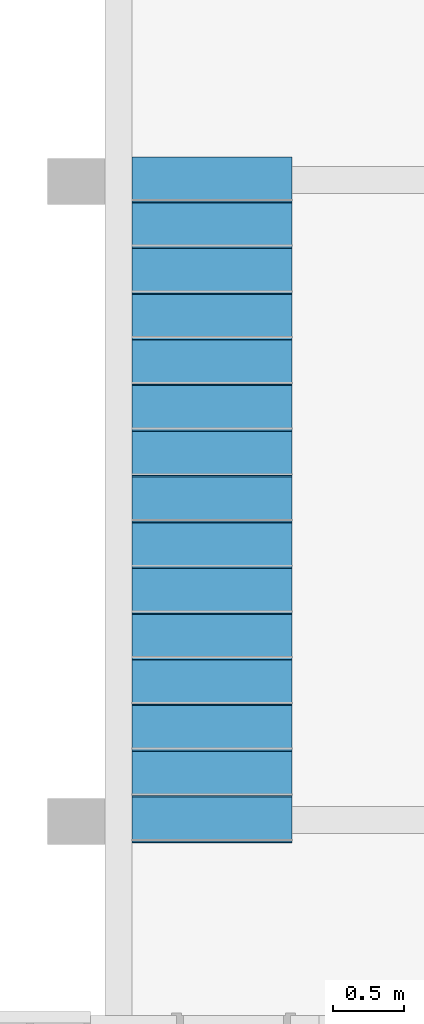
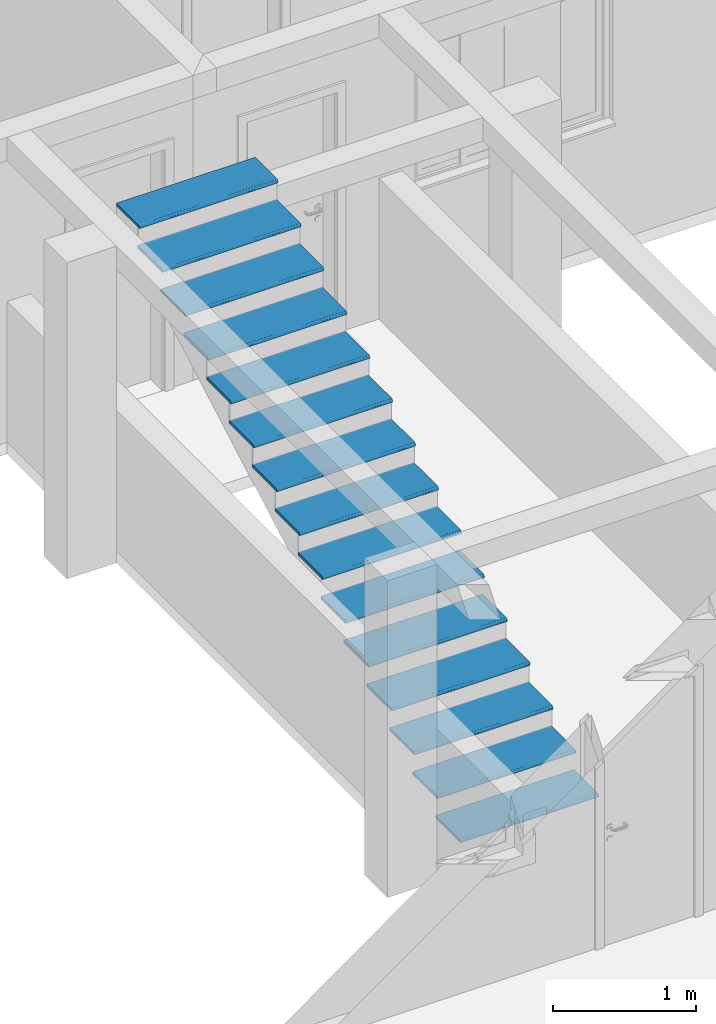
# One storey, part 46 of 47: 15 members, 1 element without a shape of its own.
"""IFC2X3 building model written with IfcOpenShell, lengths in millimetres."""

from ifc_helpers import new_model, entity, si_unit, converted_unit, derived_unit, money_unit, direction, frame, origin_with_axes, place, context, subcontext, project, spatial, faceted_brep, material, type_object, element, aggregate, save


model = new_model("IFC2X3")

# Units and contexts
model_context = context("Model", 3, precision=0.01, world=origin_with_axes(), true_north=direction((0.0, 1.0)))
body_context = subcontext(model_context, "Body", "Model", "MODEL_VIEW")
ifc_project = project(units=[si_unit("LENGTHUNIT", "METRE", prefix="MILLI"), si_unit("AREAUNIT", "SQUARE_METRE"), si_unit("VOLUMEUNIT", "CUBIC_METRE"), converted_unit("PLANEANGLEUNIT", "DEGREE", entity("IfcPlaneAngleMeasure", 0.0174532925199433), si_unit("PLANEANGLEUNIT", "RADIAN"), dimensions=[0, 0, 0, 0, 0, 0, 0]), money_unit("USD"), converted_unit("TIMEUNIT", "Year", entity("IfcTimeMeasure", 31557600.0), si_unit("TIMEUNIT", "SECOND"), dimensions=[0, 0, 1, 0, 0, 0, 0]), si_unit("MASSUNIT", "GRAM", prefix="KILO"), si_unit("THERMODYNAMICTEMPERATUREUNIT", "DEGREE_CELSIUS"), si_unit("LUMINOUSINTENSITYUNIT", "LUMEN"), si_unit("ENERGYUNIT", "JOULE", prefix="MEGA"), derived_unit("THERMALCONDUCTANCEUNIT", [(si_unit("POWERUNIT", "WATT"), 1), (si_unit("LENGTHUNIT", "METRE"), -1), (si_unit("THERMODYNAMICTEMPERATUREUNIT", "KELVIN"), -1)]), derived_unit("SPECIFICHEATCAPACITYUNIT", [(si_unit("ENERGYUNIT", "JOULE"), 1), (si_unit("MASSUNIT", "GRAM", prefix="KILO"), -1), (si_unit("THERMODYNAMICTEMPERATUREUNIT", "KELVIN"), -1)]), derived_unit("MASSDENSITYUNIT", [(si_unit("MASSUNIT", "GRAM", prefix="KILO"), 1), (si_unit("VOLUMEUNIT", "CUBIC_METRE"), -1)])], contexts=[model_context])

# Site, building, storey
site_placement = place(None, origin_with_axes())
site = spatial("IfcSite", under=ifc_project, at=site_placement, Name="Local", CompositionType="ELEMENT")
building_placement = place(site_placement, origin_with_axes())
building = spatial("IfcBuilding", under=site, at=building_placement, Name="Construção", CompositionType="ELEMENT")
storey_placement = place(building_placement, origin_with_axes())
storey = spatial("IfcBuildingStorey", under=building, at=storey_placement, Name="Pavimento Tipo", CompositionType="ELEMENT", Elevation=0.0)

# Stair, members
stair_placement = place(storey_placement, frame((-457.4330024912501, 6396.981417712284, 0.0), z_axis=(0.0, 0.0, 1.0), x_axis=(1.0, 0.0, 0.0)))
stair = element("IfcStair", 1, at=stair_placement, inside=storey, Name="Núcleo - Escada - 001", ShapeType="NOTDEFINED")
ifc_material = material(Name="Madeira")
member_type = type_object("IfcMemberType", Name="IfcMember", PredefinedType="USERDEFINED")
member_1_placement = place(stair_placement, frame((560.0, 0.0, 180.0), z_axis=(0.0, 0.0, 1.0), x_axis=(1.0, 0.0, 0.0)))
member_1 = element("IfcMember", 2, at=member_1_placement, type_object=member_type, material=ifc_material, Name="Núcleo - Piso Esc. - 017", ObjectType="Stair Tread", context=body_context, shape_type="Brep", body=[
    faceted_brep([(-560.0, 344.9999976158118, 0.0), (560.0, 344.9999976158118, 0.0), (560.0, 344.9999976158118, -25.0), (-560.0, 344.9999976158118, -25.0), (-560.0, 20.00000000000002, 0.0), (560.0, 19.99999999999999, 0.0), (560.0, 0.3038449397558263, -16.52703644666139), (560.0, 0.0, -20.0), (560.0, 0.0, -25.0), (560.0, 16.5270364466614, -0.3038449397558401), (560.0, 13.15959713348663, -1.206147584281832), (560.0, 9.99999999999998, -2.679491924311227), (560.0, 7.144247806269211, -4.679111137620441), (560.0, 4.679111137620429, -7.144247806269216), (560.0, 2.679491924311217, -10.0), (560.0, 1.206147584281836, -13.15959713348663), (-560.0, 0.0, -25.0), (-560.0, 0.0, -20.0), (-560.0, 0.3038449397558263, -16.52703644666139), (-560.0, 1.206147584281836, -13.15959713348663), (-560.0, 2.679491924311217, -10.0), (-560.0, 4.679111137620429, -7.144247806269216), (-560.0, 7.144247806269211, -4.679111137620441), (-560.0, 10.00000000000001, -2.679491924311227), (-560.0, 13.15959713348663, -1.206147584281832), (-560.0, 16.5270364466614, -0.3038449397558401)], [[[0, 1, 2, 3]], [[1, 0, 4, 5]], [[6, 7, 8, 2, 1, 5, 9, 10, 11, 12, 13, 14, 15]], [[8, 16, 3, 2]], [[4, 0, 3, 16, 17, 18, 19, 20, 21, 22, 23, 24, 25]], [[9, 5, 4, 25]], [[7, 6, 18, 17]], [[7, 17, 16, 8]], [[10, 9, 25, 24]], [[11, 10, 24, 23]], [[12, 11, 23, 22]], [[13, 12, 22, 21]], [[14, 13, 21, 20]], [[15, 14, 20, 19]], [[6, 15, 19, 18]]]),
])
member_2_placement = place(stair_placement, frame((560.0, 320.0000000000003, 360.0000000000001), z_axis=(0.0, 0.0, 1.0), x_axis=(1.0, 0.0, 0.0)))
member_2 = element("IfcMember", 3, at=member_2_placement, type_object=member_type, material=ifc_material, Name="Núcleo - Piso Esc. - 017", ObjectType="Stair Tread", context=body_context, shape_type="Brep", body=[
    faceted_brep([(-560.0, 344.9999976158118, 0.0), (560.0, 344.9999976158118, 0.0), (560.0, 344.9999976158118, -25.0), (-560.0, 344.9999976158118, -25.0), (-560.0, 20.00000000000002, 0.0), (560.0, 19.99999999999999, 0.0), (560.0, 0.3038449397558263, -16.52703644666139), (560.0, 0.0, -20.0), (560.0, 0.0, -25.0), (560.0, 16.5270364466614, -0.3038449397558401), (560.0, 13.15959713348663, -1.206147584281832), (560.0, 9.99999999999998, -2.679491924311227), (560.0, 7.144247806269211, -4.679111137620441), (560.0, 4.679111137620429, -7.144247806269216), (560.0, 2.679491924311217, -10.0), (560.0, 1.206147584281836, -13.15959713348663), (-560.0, 0.0, -25.0), (-560.0, 0.0, -20.0), (-560.0, 0.3038449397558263, -16.52703644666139), (-560.0, 1.206147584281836, -13.15959713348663), (-560.0, 2.679491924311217, -10.0), (-560.0, 4.679111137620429, -7.144247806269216), (-560.0, 7.144247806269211, -4.679111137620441), (-560.0, 10.00000000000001, -2.679491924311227), (-560.0, 13.15959713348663, -1.206147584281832), (-560.0, 16.5270364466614, -0.3038449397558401)], [[[0, 1, 2, 3]], [[1, 0, 4, 5]], [[6, 7, 8, 2, 1, 5, 9, 10, 11, 12, 13, 14, 15]], [[8, 16, 3, 2]], [[4, 0, 3, 16, 17, 18, 19, 20, 21, 22, 23, 24, 25]], [[9, 5, 4, 25]], [[7, 6, 18, 17]], [[7, 17, 16, 8]], [[10, 9, 25, 24]], [[11, 10, 24, 23]], [[12, 11, 23, 22]], [[13, 12, 22, 21]], [[14, 13, 21, 20]], [[15, 14, 20, 19]], [[6, 15, 19, 18]]]),
])
member_3_placement = place(stair_placement, frame((560.0, 639.9999999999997, 540.0), z_axis=(0.0, 0.0, 1.0), x_axis=(1.0, 0.0, 0.0)))
member_3 = element("IfcMember", 4, at=member_3_placement, type_object=member_type, material=ifc_material, Name="Núcleo - Piso Esc. - 017", ObjectType="Stair Tread", context=body_context, shape_type="Brep", body=[
    faceted_brep([(-560.0, 344.9999976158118, 0.0), (560.0, 344.9999976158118, 0.0), (560.0, 344.9999976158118, -25.0), (-560.0, 344.9999976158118, -25.0), (-560.0, 20.00000000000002, 0.0), (560.0, 19.99999999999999, 0.0), (560.0, 0.3038449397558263, -16.52703644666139), (560.0, 0.0, -20.0), (560.0, 0.0, -25.0), (560.0, 16.5270364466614, -0.3038449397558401), (560.0, 13.15959713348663, -1.206147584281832), (560.0, 9.99999999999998, -2.679491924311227), (560.0, 7.144247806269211, -4.679111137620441), (560.0, 4.679111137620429, -7.144247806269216), (560.0, 2.679491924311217, -10.0), (560.0, 1.206147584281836, -13.15959713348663), (-560.0, 0.0, -25.0), (-560.0, 0.0, -20.0), (-560.0, 0.3038449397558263, -16.52703644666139), (-560.0, 1.206147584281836, -13.15959713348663), (-560.0, 2.679491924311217, -10.0), (-560.0, 4.679111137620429, -7.144247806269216), (-560.0, 7.144247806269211, -4.679111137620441), (-560.0, 10.00000000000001, -2.679491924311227), (-560.0, 13.15959713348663, -1.206147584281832), (-560.0, 16.5270364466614, -0.3038449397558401)], [[[0, 1, 2, 3]], [[1, 0, 4, 5]], [[6, 7, 8, 2, 1, 5, 9, 10, 11, 12, 13, 14, 15]], [[8, 16, 3, 2]], [[4, 0, 3, 16, 17, 18, 19, 20, 21, 22, 23, 24, 25]], [[9, 5, 4, 25]], [[7, 6, 18, 17]], [[7, 17, 16, 8]], [[10, 9, 25, 24]], [[11, 10, 24, 23]], [[12, 11, 23, 22]], [[13, 12, 22, 21]], [[14, 13, 21, 20]], [[15, 14, 20, 19]], [[6, 15, 19, 18]]]),
])
member_4_placement = place(stair_placement, frame((560.0, 960.0, 720.0000000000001), z_axis=(0.0, 0.0, 1.0), x_axis=(1.0, 0.0, 0.0)))
member_4 = element("IfcMember", 5, at=member_4_placement, type_object=member_type, material=ifc_material, Name="Núcleo - Piso Esc. - 017", ObjectType="Stair Tread", context=body_context, shape_type="Brep", body=[
    faceted_brep([(-560.0, 344.9999976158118, 0.0), (560.0, 344.9999976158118, 0.0), (560.0, 344.9999976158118, -25.0), (-560.0, 344.9999976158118, -25.0), (-560.0, 20.00000000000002, 0.0), (560.0, 19.99999999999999, 0.0), (560.0, 0.3038449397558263, -16.52703644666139), (560.0, 0.0, -20.0), (560.0, 0.0, -25.0), (560.0, 16.5270364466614, -0.3038449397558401), (560.0, 13.15959713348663, -1.206147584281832), (560.0, 9.99999999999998, -2.679491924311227), (560.0, 7.144247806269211, -4.679111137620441), (560.0, 4.679111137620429, -7.144247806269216), (560.0, 2.679491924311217, -10.0), (560.0, 1.206147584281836, -13.15959713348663), (-560.0, 0.0, -25.0), (-560.0, 0.0, -20.0), (-560.0, 0.3038449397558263, -16.52703644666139), (-560.0, 1.206147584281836, -13.15959713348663), (-560.0, 2.679491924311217, -10.0), (-560.0, 4.679111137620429, -7.144247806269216), (-560.0, 7.144247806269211, -4.679111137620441), (-560.0, 10.00000000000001, -2.679491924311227), (-560.0, 13.15959713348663, -1.206147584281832), (-560.0, 16.5270364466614, -0.3038449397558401)], [[[0, 1, 2, 3]], [[1, 0, 4, 5]], [[6, 7, 8, 2, 1, 5, 9, 10, 11, 12, 13, 14, 15]], [[8, 16, 3, 2]], [[4, 0, 3, 16, 17, 18, 19, 20, 21, 22, 23, 24, 25]], [[9, 5, 4, 25]], [[7, 6, 18, 17]], [[7, 17, 16, 8]], [[10, 9, 25, 24]], [[11, 10, 24, 23]], [[12, 11, 23, 22]], [[13, 12, 22, 21]], [[14, 13, 21, 20]], [[15, 14, 20, 19]], [[6, 15, 19, 18]]]),
])
member_5_placement = place(stair_placement, frame((560.0000000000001, 1280.0, 900.0000000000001), z_axis=(0.0, 0.0, 1.0), x_axis=(1.0, 0.0, 0.0)))
member_5 = element("IfcMember", 6, at=member_5_placement, type_object=member_type, material=ifc_material, Name="Núcleo - Piso Esc. - 017", ObjectType="Stair Tread", context=body_context, shape_type="Brep", body=[
    faceted_brep([(-560.0, 344.9999976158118, 0.0), (560.0, 344.9999976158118, 0.0), (560.0, 344.9999976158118, -25.0), (-560.0, 344.9999976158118, -25.0), (-560.0, 20.00000000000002, 0.0), (560.0, 19.99999999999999, 0.0), (560.0, 0.3038449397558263, -16.52703644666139), (560.0, 0.0, -20.0), (560.0, 0.0, -25.0), (560.0, 16.5270364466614, -0.3038449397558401), (560.0, 13.15959713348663, -1.206147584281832), (560.0, 9.99999999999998, -2.679491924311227), (560.0, 7.144247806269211, -4.679111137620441), (560.0, 4.679111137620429, -7.144247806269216), (560.0, 2.679491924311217, -10.0), (560.0, 1.206147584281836, -13.15959713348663), (-560.0, 0.0, -25.0), (-560.0, 0.0, -20.0), (-560.0, 0.3038449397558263, -16.52703644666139), (-560.0, 1.206147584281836, -13.15959713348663), (-560.0, 2.679491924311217, -10.0), (-560.0, 4.679111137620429, -7.144247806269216), (-560.0, 7.144247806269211, -4.679111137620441), (-560.0, 10.00000000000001, -2.679491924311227), (-560.0, 13.15959713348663, -1.206147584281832), (-560.0, 16.5270364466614, -0.3038449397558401)], [[[0, 1, 2, 3]], [[1, 0, 4, 5]], [[6, 7, 8, 2, 1, 5, 9, 10, 11, 12, 13, 14, 15]], [[8, 16, 3, 2]], [[4, 0, 3, 16, 17, 18, 19, 20, 21, 22, 23, 24, 25]], [[9, 5, 4, 25]], [[7, 6, 18, 17]], [[7, 17, 16, 8]], [[10, 9, 25, 24]], [[11, 10, 24, 23]], [[12, 11, 23, 22]], [[13, 12, 22, 21]], [[14, 13, 21, 20]], [[15, 14, 20, 19]], [[6, 15, 19, 18]]]),
])
member_6_placement = place(stair_placement, frame((560.0000000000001, 1600.0, 1080.0), z_axis=(0.0, 0.0, 1.0), x_axis=(1.0, 0.0, 0.0)))
member_6 = element("IfcMember", 7, at=member_6_placement, type_object=member_type, material=ifc_material, Name="Núcleo - Piso Esc. - 017", ObjectType="Stair Tread", context=body_context, shape_type="Brep", body=[
    faceted_brep([(-560.0, 344.9999976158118, 0.0), (560.0, 344.9999976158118, 0.0), (560.0, 344.9999976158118, -25.0), (-560.0, 344.9999976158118, -25.0), (-560.0, 20.00000000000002, 0.0), (560.0, 19.99999999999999, 0.0), (560.0, 0.3038449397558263, -16.52703644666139), (560.0, 0.0, -20.0), (560.0, 0.0, -25.0), (560.0, 16.5270364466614, -0.3038449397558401), (560.0, 13.15959713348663, -1.206147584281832), (560.0, 9.99999999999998, -2.679491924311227), (560.0, 7.144247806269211, -4.679111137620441), (560.0, 4.679111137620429, -7.144247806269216), (560.0, 2.679491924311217, -10.0), (560.0, 1.206147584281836, -13.15959713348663), (-560.0, 0.0, -25.0), (-560.0, 0.0, -20.0), (-560.0, 0.3038449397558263, -16.52703644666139), (-560.0, 1.206147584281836, -13.15959713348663), (-560.0, 2.679491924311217, -10.0), (-560.0, 4.679111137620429, -7.144247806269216), (-560.0, 7.144247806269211, -4.679111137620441), (-560.0, 10.00000000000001, -2.679491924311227), (-560.0, 13.15959713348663, -1.206147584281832), (-560.0, 16.5270364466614, -0.3038449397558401)], [[[0, 1, 2, 3]], [[1, 0, 4, 5]], [[6, 7, 8, 2, 1, 5, 9, 10, 11, 12, 13, 14, 15]], [[8, 16, 3, 2]], [[4, 0, 3, 16, 17, 18, 19, 20, 21, 22, 23, 24, 25]], [[9, 5, 4, 25]], [[7, 6, 18, 17]], [[7, 17, 16, 8]], [[10, 9, 25, 24]], [[11, 10, 24, 23]], [[12, 11, 23, 22]], [[13, 12, 22, 21]], [[14, 13, 21, 20]], [[15, 14, 20, 19]], [[6, 15, 19, 18]]]),
])
member_7_placement = place(stair_placement, frame((560.0000000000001, 1920.0, 1260.0), z_axis=(0.0, 0.0, 1.0), x_axis=(1.0, 0.0, 0.0)))
member_7 = element("IfcMember", 8, at=member_7_placement, type_object=member_type, material=ifc_material, Name="Núcleo - Piso Esc. - 017", ObjectType="Stair Tread", context=body_context, shape_type="Brep", body=[
    faceted_brep([(-560.0, 344.9999976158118, 0.0), (560.0, 344.9999976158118, 0.0), (560.0, 344.9999976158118, -25.0), (-560.0, 344.9999976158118, -25.0), (-560.0, 20.00000000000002, 0.0), (560.0, 19.99999999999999, 0.0), (560.0, 0.3038449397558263, -16.52703644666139), (560.0, 0.0, -20.0), (560.0, 0.0, -25.0), (560.0, 16.5270364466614, -0.3038449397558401), (560.0, 13.15959713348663, -1.206147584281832), (560.0, 9.99999999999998, -2.679491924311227), (560.0, 7.144247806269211, -4.679111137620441), (560.0, 4.679111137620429, -7.144247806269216), (560.0, 2.679491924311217, -10.0), (560.0, 1.206147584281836, -13.15959713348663), (-560.0, 0.0, -25.0), (-560.0, 0.0, -20.0), (-560.0, 0.3038449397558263, -16.52703644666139), (-560.0, 1.206147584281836, -13.15959713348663), (-560.0, 2.679491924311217, -10.0), (-560.0, 4.679111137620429, -7.144247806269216), (-560.0, 7.144247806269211, -4.679111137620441), (-560.0, 10.00000000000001, -2.679491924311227), (-560.0, 13.15959713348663, -1.206147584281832), (-560.0, 16.5270364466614, -0.3038449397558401)], [[[0, 1, 2, 3]], [[1, 0, 4, 5]], [[6, 7, 8, 2, 1, 5, 9, 10, 11, 12, 13, 14, 15]], [[8, 16, 3, 2]], [[4, 0, 3, 16, 17, 18, 19, 20, 21, 22, 23, 24, 25]], [[9, 5, 4, 25]], [[7, 6, 18, 17]], [[7, 17, 16, 8]], [[10, 9, 25, 24]], [[11, 10, 24, 23]], [[12, 11, 23, 22]], [[13, 12, 22, 21]], [[14, 13, 21, 20]], [[15, 14, 20, 19]], [[6, 15, 19, 18]]]),
])
member_8_placement = place(stair_placement, frame((560.0000000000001, 2240.0, 1440.0), z_axis=(0.0, 0.0, 1.0), x_axis=(1.0, 0.0, 0.0)))
member_8 = element("IfcMember", 9, at=member_8_placement, type_object=member_type, material=ifc_material, Name="Núcleo - Piso Esc. - 017", ObjectType="Stair Tread", context=body_context, shape_type="Brep", body=[
    faceted_brep([(-560.0, 344.9999976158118, 0.0), (560.0, 344.9999976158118, 0.0), (560.0, 344.9999976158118, -25.0), (-560.0, 344.9999976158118, -25.0), (-560.0, 20.00000000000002, 0.0), (560.0, 19.99999999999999, 0.0), (560.0, 0.3038449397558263, -16.52703644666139), (560.0, 0.0, -20.0), (560.0, 0.0, -25.0), (560.0, 16.5270364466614, -0.3038449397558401), (560.0, 13.15959713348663, -1.206147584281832), (560.0, 9.99999999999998, -2.679491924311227), (560.0, 7.144247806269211, -4.679111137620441), (560.0, 4.679111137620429, -7.144247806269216), (560.0, 2.679491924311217, -10.0), (560.0, 1.206147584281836, -13.15959713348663), (-560.0, 0.0, -25.0), (-560.0, 0.0, -20.0), (-560.0, 0.3038449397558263, -16.52703644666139), (-560.0, 1.206147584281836, -13.15959713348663), (-560.0, 2.679491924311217, -10.0), (-560.0, 4.679111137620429, -7.144247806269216), (-560.0, 7.144247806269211, -4.679111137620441), (-560.0, 10.00000000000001, -2.679491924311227), (-560.0, 13.15959713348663, -1.206147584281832), (-560.0, 16.5270364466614, -0.3038449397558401)], [[[0, 1, 2, 3]], [[1, 0, 4, 5]], [[6, 7, 8, 2, 1, 5, 9, 10, 11, 12, 13, 14, 15]], [[8, 16, 3, 2]], [[4, 0, 3, 16, 17, 18, 19, 20, 21, 22, 23, 24, 25]], [[9, 5, 4, 25]], [[7, 6, 18, 17]], [[7, 17, 16, 8]], [[10, 9, 25, 24]], [[11, 10, 24, 23]], [[12, 11, 23, 22]], [[13, 12, 22, 21]], [[14, 13, 21, 20]], [[15, 14, 20, 19]], [[6, 15, 19, 18]]]),
])
member_9_placement = place(stair_placement, frame((560.0000000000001, 2560.0, 1620.0), z_axis=(0.0, 0.0, 1.0), x_axis=(1.0, 0.0, 0.0)))
member_9 = element("IfcMember", 10, at=member_9_placement, type_object=member_type, material=ifc_material, Name="Núcleo - Piso Esc. - 017", ObjectType="Stair Tread", context=body_context, shape_type="Brep", body=[
    faceted_brep([(-560.0, 344.9999976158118, 0.0), (560.0, 344.9999976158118, 0.0), (560.0, 344.9999976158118, -25.0), (-560.0, 344.9999976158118, -25.0), (-560.0, 20.00000000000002, 0.0), (560.0, 19.99999999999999, 0.0), (560.0, 0.3038449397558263, -16.52703644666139), (560.0, 0.0, -20.0), (560.0, 0.0, -25.0), (560.0, 16.5270364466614, -0.3038449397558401), (560.0, 13.15959713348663, -1.206147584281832), (560.0, 9.99999999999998, -2.679491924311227), (560.0, 7.144247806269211, -4.679111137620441), (560.0, 4.679111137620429, -7.144247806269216), (560.0, 2.679491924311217, -10.0), (560.0, 1.206147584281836, -13.15959713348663), (-560.0, 0.0, -25.0), (-560.0, 0.0, -20.0), (-560.0, 0.3038449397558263, -16.52703644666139), (-560.0, 1.206147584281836, -13.15959713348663), (-560.0, 2.679491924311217, -10.0), (-560.0, 4.679111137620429, -7.144247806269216), (-560.0, 7.144247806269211, -4.679111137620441), (-560.0, 10.00000000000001, -2.679491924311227), (-560.0, 13.15959713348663, -1.206147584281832), (-560.0, 16.5270364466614, -0.3038449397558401)], [[[0, 1, 2, 3]], [[1, 0, 4, 5]], [[6, 7, 8, 2, 1, 5, 9, 10, 11, 12, 13, 14, 15]], [[8, 16, 3, 2]], [[4, 0, 3, 16, 17, 18, 19, 20, 21, 22, 23, 24, 25]], [[9, 5, 4, 25]], [[7, 6, 18, 17]], [[7, 17, 16, 8]], [[10, 9, 25, 24]], [[11, 10, 24, 23]], [[12, 11, 23, 22]], [[13, 12, 22, 21]], [[14, 13, 21, 20]], [[15, 14, 20, 19]], [[6, 15, 19, 18]]]),
])
member_10_placement = place(stair_placement, frame((560.0000000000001, 2880.000000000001, 1800.0), z_axis=(0.0, 0.0, 1.0), x_axis=(1.0, 0.0, 0.0)))
member_10 = element("IfcMember", 11, at=member_10_placement, type_object=member_type, material=ifc_material, Name="Núcleo - Piso Esc. - 017", ObjectType="Stair Tread", context=body_context, shape_type="Brep", body=[
    faceted_brep([(-560.0, 344.9999976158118, 0.0), (560.0, 344.9999976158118, 0.0), (560.0, 344.9999976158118, -25.0), (-560.0, 344.9999976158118, -25.0), (-560.0, 20.00000000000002, 0.0), (560.0, 19.99999999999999, 0.0), (560.0, 0.3038449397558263, -16.52703644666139), (560.0, 0.0, -20.0), (560.0, 0.0, -25.0), (560.0, 16.5270364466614, -0.3038449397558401), (560.0, 13.15959713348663, -1.206147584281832), (560.0, 9.99999999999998, -2.679491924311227), (560.0, 7.144247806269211, -4.679111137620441), (560.0, 4.679111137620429, -7.144247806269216), (560.0, 2.679491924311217, -10.0), (560.0, 1.206147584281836, -13.15959713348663), (-560.0, 0.0, -25.0), (-560.0, 0.0, -20.0), (-560.0, 0.3038449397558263, -16.52703644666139), (-560.0, 1.206147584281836, -13.15959713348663), (-560.0, 2.679491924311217, -10.0), (-560.0, 4.679111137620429, -7.144247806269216), (-560.0, 7.144247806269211, -4.679111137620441), (-560.0, 10.00000000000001, -2.679491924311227), (-560.0, 13.15959713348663, -1.206147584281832), (-560.0, 16.5270364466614, -0.3038449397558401)], [[[0, 1, 2, 3]], [[1, 0, 4, 5]], [[6, 7, 8, 2, 1, 5, 9, 10, 11, 12, 13, 14, 15]], [[8, 16, 3, 2]], [[4, 0, 3, 16, 17, 18, 19, 20, 21, 22, 23, 24, 25]], [[9, 5, 4, 25]], [[7, 6, 18, 17]], [[7, 17, 16, 8]], [[10, 9, 25, 24]], [[11, 10, 24, 23]], [[12, 11, 23, 22]], [[13, 12, 22, 21]], [[14, 13, 21, 20]], [[15, 14, 20, 19]], [[6, 15, 19, 18]]]),
])
member_11_placement = place(stair_placement, frame((560.0000000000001, 3200.000000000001, 1980.0), z_axis=(0.0, 0.0, 1.0), x_axis=(1.0, 0.0, 0.0)))
member_11 = element("IfcMember", 12, at=member_11_placement, type_object=member_type, material=ifc_material, Name="Núcleo - Piso Esc. - 017", ObjectType="Stair Tread", context=body_context, shape_type="Brep", body=[
    faceted_brep([(-560.0, 344.9999976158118, 0.0), (560.0, 344.9999976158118, 0.0), (560.0, 344.9999976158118, -25.0), (-560.0, 344.9999976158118, -25.0), (-560.0, 20.00000000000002, 0.0), (560.0, 19.99999999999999, 0.0), (560.0, 0.3038449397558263, -16.52703644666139), (560.0, 0.0, -20.0), (560.0, 0.0, -25.0), (560.0, 16.5270364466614, -0.3038449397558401), (560.0, 13.15959713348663, -1.206147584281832), (560.0, 9.99999999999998, -2.679491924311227), (560.0, 7.144247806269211, -4.679111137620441), (560.0, 4.679111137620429, -7.144247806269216), (560.0, 2.679491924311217, -10.0), (560.0, 1.206147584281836, -13.15959713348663), (-560.0, 0.0, -25.0), (-560.0, 0.0, -20.0), (-560.0, 0.3038449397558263, -16.52703644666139), (-560.0, 1.206147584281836, -13.15959713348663), (-560.0, 2.679491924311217, -10.0), (-560.0, 4.679111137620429, -7.144247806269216), (-560.0, 7.144247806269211, -4.679111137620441), (-560.0, 10.00000000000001, -2.679491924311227), (-560.0, 13.15959713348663, -1.206147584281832), (-560.0, 16.5270364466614, -0.3038449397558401)], [[[0, 1, 2, 3]], [[1, 0, 4, 5]], [[6, 7, 8, 2, 1, 5, 9, 10, 11, 12, 13, 14, 15]], [[8, 16, 3, 2]], [[4, 0, 3, 16, 17, 18, 19, 20, 21, 22, 23, 24, 25]], [[9, 5, 4, 25]], [[7, 6, 18, 17]], [[7, 17, 16, 8]], [[10, 9, 25, 24]], [[11, 10, 24, 23]], [[12, 11, 23, 22]], [[13, 12, 22, 21]], [[14, 13, 21, 20]], [[15, 14, 20, 19]], [[6, 15, 19, 18]]]),
])
member_12_placement = place(stair_placement, frame((560.0000000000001, 3520.0, 2160.0), z_axis=(0.0, 0.0, 1.0), x_axis=(1.0, 0.0, 0.0)))
member_12 = element("IfcMember", 13, at=member_12_placement, type_object=member_type, material=ifc_material, Name="Núcleo - Piso Esc. - 017", ObjectType="Stair Tread", context=body_context, shape_type="Brep", body=[
    faceted_brep([(-560.0, 344.9999976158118, 0.0), (560.0, 344.9999976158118, 0.0), (560.0, 344.9999976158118, -25.0), (-560.0, 344.9999976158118, -25.0), (-560.0, 20.00000000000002, 0.0), (560.0, 19.99999999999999, 0.0), (560.0, 0.3038449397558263, -16.52703644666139), (560.0, 0.0, -20.0), (560.0, 0.0, -25.0), (560.0, 16.5270364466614, -0.3038449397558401), (560.0, 13.15959713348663, -1.206147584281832), (560.0, 9.99999999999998, -2.679491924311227), (560.0, 7.144247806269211, -4.679111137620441), (560.0, 4.679111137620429, -7.144247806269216), (560.0, 2.679491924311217, -10.0), (560.0, 1.206147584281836, -13.15959713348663), (-560.0, 0.0, -25.0), (-560.0, 0.0, -20.0), (-560.0, 0.3038449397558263, -16.52703644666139), (-560.0, 1.206147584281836, -13.15959713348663), (-560.0, 2.679491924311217, -10.0), (-560.0, 4.679111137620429, -7.144247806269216), (-560.0, 7.144247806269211, -4.679111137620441), (-560.0, 10.00000000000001, -2.679491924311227), (-560.0, 13.15959713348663, -1.206147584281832), (-560.0, 16.5270364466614, -0.3038449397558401)], [[[0, 1, 2, 3]], [[1, 0, 4, 5]], [[6, 7, 8, 2, 1, 5, 9, 10, 11, 12, 13, 14, 15]], [[8, 16, 3, 2]], [[4, 0, 3, 16, 17, 18, 19, 20, 21, 22, 23, 24, 25]], [[9, 5, 4, 25]], [[7, 6, 18, 17]], [[7, 17, 16, 8]], [[10, 9, 25, 24]], [[11, 10, 24, 23]], [[12, 11, 23, 22]], [[13, 12, 22, 21]], [[14, 13, 21, 20]], [[15, 14, 20, 19]], [[6, 15, 19, 18]]]),
])
member_13_placement = place(stair_placement, frame((560.0000000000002, 3840.0, 2340.0), z_axis=(0.0, 0.0, 1.0), x_axis=(1.0, 0.0, 0.0)))
member_13 = element("IfcMember", 14, at=member_13_placement, type_object=member_type, material=ifc_material, Name="Núcleo - Piso Esc. - 017", ObjectType="Stair Tread", context=body_context, shape_type="Brep", body=[
    faceted_brep([(-560.0, 344.9999976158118, 0.0), (560.0, 344.9999976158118, 0.0), (560.0, 344.9999976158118, -25.0), (-560.0, 344.9999976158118, -25.0), (-560.0, 20.00000000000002, 0.0), (560.0, 19.99999999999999, 0.0), (560.0, 0.3038449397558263, -16.52703644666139), (560.0, 0.0, -20.0), (560.0, 0.0, -25.0), (560.0, 16.5270364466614, -0.3038449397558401), (560.0, 13.15959713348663, -1.206147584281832), (560.0, 9.99999999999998, -2.679491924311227), (560.0, 7.144247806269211, -4.679111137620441), (560.0, 4.679111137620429, -7.144247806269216), (560.0, 2.679491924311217, -10.0), (560.0, 1.206147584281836, -13.15959713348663), (-560.0, 0.0, -25.0), (-560.0, 0.0, -20.0), (-560.0, 0.3038449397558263, -16.52703644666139), (-560.0, 1.206147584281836, -13.15959713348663), (-560.0, 2.679491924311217, -10.0), (-560.0, 4.679111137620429, -7.144247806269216), (-560.0, 7.144247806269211, -4.679111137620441), (-560.0, 10.00000000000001, -2.679491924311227), (-560.0, 13.15959713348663, -1.206147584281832), (-560.0, 16.5270364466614, -0.3038449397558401)], [[[0, 1, 2, 3]], [[1, 0, 4, 5]], [[6, 7, 8, 2, 1, 5, 9, 10, 11, 12, 13, 14, 15]], [[8, 16, 3, 2]], [[4, 0, 3, 16, 17, 18, 19, 20, 21, 22, 23, 24, 25]], [[9, 5, 4, 25]], [[7, 6, 18, 17]], [[7, 17, 16, 8]], [[10, 9, 25, 24]], [[11, 10, 24, 23]], [[12, 11, 23, 22]], [[13, 12, 22, 21]], [[14, 13, 21, 20]], [[15, 14, 20, 19]], [[6, 15, 19, 18]]]),
])
member_14_placement = place(stair_placement, frame((560.0000000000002, 4160.0, 2520.0), z_axis=(0.0, 0.0, 1.0), x_axis=(1.0, 0.0, 0.0)))
member_14 = element("IfcMember", 15, at=member_14_placement, type_object=member_type, material=ifc_material, Name="Núcleo - Piso Esc. - 017", ObjectType="Stair Tread", context=body_context, shape_type="Brep", body=[
    faceted_brep([(-560.0, 344.9999976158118, 0.0), (560.0, 344.9999976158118, 0.0), (560.0, 344.9999976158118, -25.0), (-560.0, 344.9999976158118, -25.0), (-560.0, 20.00000000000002, 0.0), (560.0, 19.99999999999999, 0.0), (560.0, 0.3038449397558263, -16.52703644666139), (560.0, 0.0, -20.0), (560.0, 0.0, -25.0), (560.0, 16.5270364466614, -0.3038449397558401), (560.0, 13.15959713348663, -1.206147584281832), (560.0, 9.99999999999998, -2.679491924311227), (560.0, 7.144247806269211, -4.679111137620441), (560.0, 4.679111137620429, -7.144247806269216), (560.0, 2.679491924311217, -10.0), (560.0, 1.206147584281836, -13.15959713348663), (-560.0, 0.0, -25.0), (-560.0, 0.0, -20.0), (-560.0, 0.3038449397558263, -16.52703644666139), (-560.0, 1.206147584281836, -13.15959713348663), (-560.0, 2.679491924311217, -10.0), (-560.0, 4.679111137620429, -7.144247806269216), (-560.0, 7.144247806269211, -4.679111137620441), (-560.0, 10.00000000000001, -2.679491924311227), (-560.0, 13.15959713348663, -1.206147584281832), (-560.0, 16.5270364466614, -0.3038449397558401)], [[[0, 1, 2, 3]], [[1, 0, 4, 5]], [[6, 7, 8, 2, 1, 5, 9, 10, 11, 12, 13, 14, 15]], [[8, 16, 3, 2]], [[4, 0, 3, 16, 17, 18, 19, 20, 21, 22, 23, 24, 25]], [[9, 5, 4, 25]], [[7, 6, 18, 17]], [[7, 17, 16, 8]], [[10, 9, 25, 24]], [[11, 10, 24, 23]], [[12, 11, 23, 22]], [[13, 12, 22, 21]], [[14, 13, 21, 20]], [[15, 14, 20, 19]], [[6, 15, 19, 18]]]),
])
member_15_placement = place(stair_placement, frame((560.0000000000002, 4480.0, 2700.0), z_axis=(0.0, 0.0, 1.0), x_axis=(1.0, 0.0, 0.0)))
member_15 = element("IfcMember", 16, at=member_15_placement, type_object=member_type, material=ifc_material, Name="Núcleo - Piso Esc. - 017", ObjectType="Stair Tread", context=body_context, shape_type="Brep", body=[
    faceted_brep([(-560.0, 319.9999999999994, 0.0), (560.0, 319.9999999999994, 0.0), (560.0, 319.9999999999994, -25.0), (-560.0, 319.9999999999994, -25.0), (-560.0, 19.99999999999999, 0.0), (560.0, 19.99999999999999, 0.0), (560.0, 0.3038449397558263, -16.52703644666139), (560.0, 0.0, -20.0), (560.0, 0.0, -25.0), (560.0, 16.5270364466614, -0.3038449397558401), (560.0, 13.15959713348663, -1.206147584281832), (560.0, 10.00000000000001, -2.679491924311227), (560.0, 7.144247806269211, -4.679111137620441), (560.0, 4.679111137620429, -7.144247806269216), (560.0, 2.679491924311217, -10.0), (560.0, 1.206147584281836, -13.15959713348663), (-560.0, 0.0, -25.0), (-560.0, 0.0, -20.0), (-560.0, 0.3038449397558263, -16.52703644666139), (-560.0, 1.206147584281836, -13.15959713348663), (-560.0, 2.679491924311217, -10.0), (-560.0, 4.679111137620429, -7.144247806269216), (-560.0, 7.144247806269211, -4.679111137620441), (-560.0, 10.00000000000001, -2.679491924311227), (-560.0, 13.15959713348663, -1.206147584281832), (-560.0, 16.5270364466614, -0.3038449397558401)], [[[0, 1, 2, 3]], [[1, 0, 4, 5]], [[6, 7, 8, 2, 1, 5, 9, 10, 11, 12, 13, 14, 15]], [[8, 16, 3, 2]], [[4, 0, 3, 16, 17, 18, 19, 20, 21, 22, 23, 24, 25]], [[9, 5, 4, 25]], [[7, 6, 18, 17]], [[7, 17, 16, 8]], [[10, 9, 25, 24]], [[11, 10, 24, 23]], [[12, 11, 23, 22]], [[13, 12, 22, 21]], [[14, 13, 21, 20]], [[15, 14, 20, 19]], [[6, 15, 19, 18]]]),
])
aggregate(stair, [member_1, member_2, member_3, member_4, member_5, member_6, member_7, member_8, member_9, member_10, member_11, member_12, member_13, member_14, member_15])

save(model, "model.ifc")
